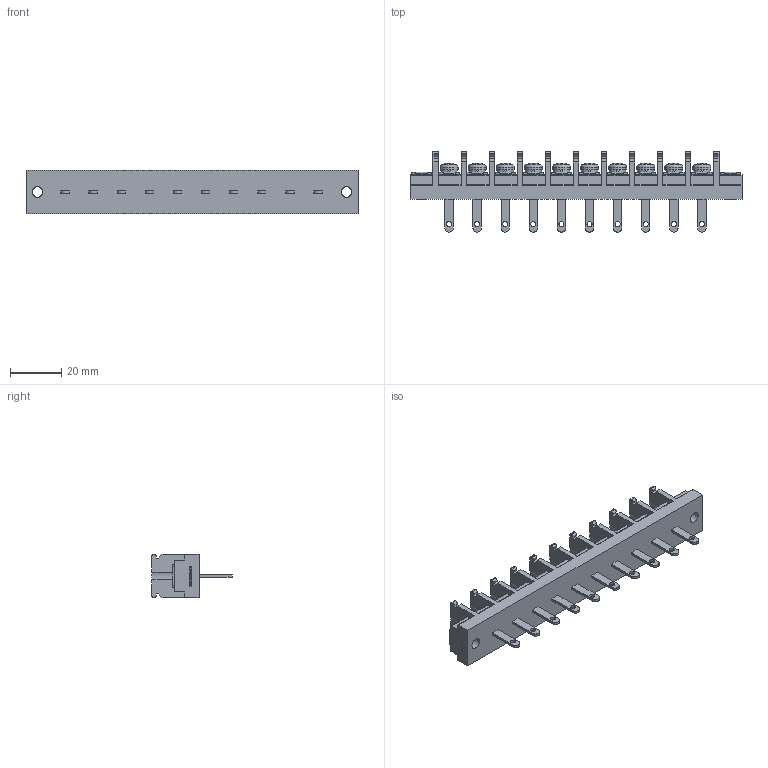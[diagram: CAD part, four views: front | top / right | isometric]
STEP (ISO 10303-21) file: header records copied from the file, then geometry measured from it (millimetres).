
FILE_DESCRIPTION(/* description */ ('Alibre Inc.'),/* implementation_level */ '2;1');
FILE_NAME(/* name */ 'export0',/* time_stamp */ '2015-10-19T19:18:13+09:00',/* author */ (''),/* organization */ (''),/* preprocessor_version */ 'ST-DEVELOPER v14',/* originating_system */ 'Alibre',/* authorisation */ '');
FILE_SCHEMA (('CONFIG_CONTROL_DESIGN'));
Length unit declared in the file: centimetre
Products named in the file (1): ID_1
Bounding box: 130 x 31.5 x 17 mm (x, y, z)
Volume: 23934.3 mm3; surface area: 14056.8 mm2
Topology: 1 solids, 1 shells, 1204 faces, 3366 edges, 2238 vertices
Faces by surface type: plane 838, cylinder 192, bspline 104, cone 40, torus 20, sphere 10
Full cylindrical faces by diameter (mm): 2 x10, 4 x12, 4.2 x2, 6.5 x10, 7 x10
Entity records: 37395 total; most frequent: CARTESIAN_POINT 7896, ORIENTED_EDGE 6540, DIRECTION 4989, EDGE_CURVE 3270, VECTOR 2287, LINE 2287, VERTEX_POINT 2196, AXIS2_PLACEMENT_3D 1765
